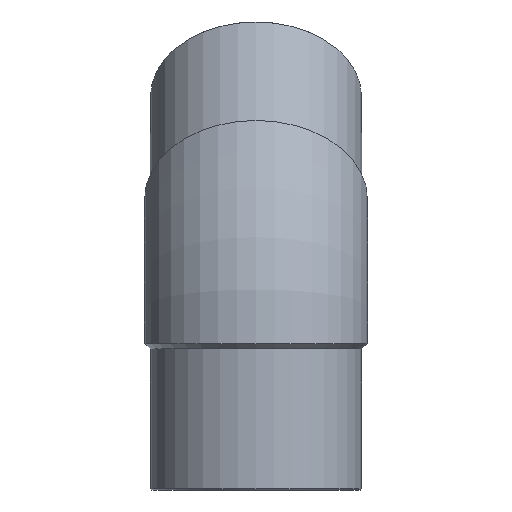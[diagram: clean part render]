
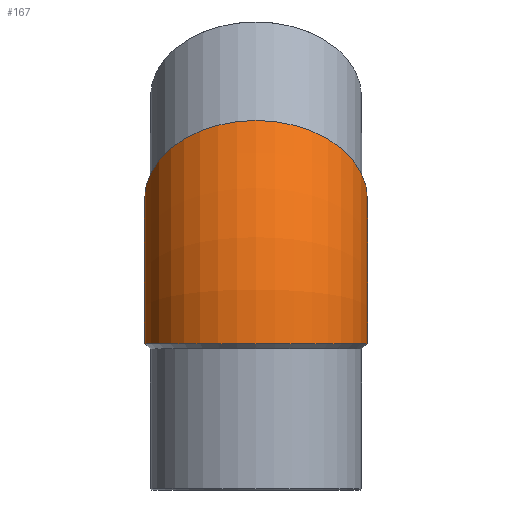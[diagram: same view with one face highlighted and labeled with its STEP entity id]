
A CAD part, left-side view. The second image highlights one B-rep face of the part: STEP entity #167.
In plain terms, the highlighted toroidal (fillet/blend) face has major radius 154.51 mm and minor radius 84.5 mm.
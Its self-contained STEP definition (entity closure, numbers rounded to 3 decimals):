
#20=TOROIDAL_SURFACE('',#201,154.51,84.5);
#49=ORIENTED_EDGE('',*,*,#68,.F.);
#50=ORIENTED_EDGE('',*,*,#80,.T.);
#68=EDGE_CURVE('',#85,#85,#101,.F.);
#80=EDGE_CURVE('',#96,#96,#108,.F.);
#85=VERTEX_POINT('',#269);
#96=VERTEX_POINT('',#313);
#101=CIRCLE('',#189,84.5);
#108=CIRCLE('',#202,84.5);
#122=EDGE_LOOP('',(#49));
#123=EDGE_LOOP('',(#50));
#145=FACE_BOUND('',#122,.T.);
#146=FACE_BOUND('',#123,.T.);
#167=ADVANCED_FACE('',(#145,#146),#20,.T.);
#189=AXIS2_PLACEMENT_3D('',#268,#218,#219);
#201=AXIS2_PLACEMENT_3D('',#311,#242,#243);
#202=AXIS2_PLACEMENT_3D('',#312,#244,#245);
#218=DIRECTION('',(-0.707,0.,-0.707));
#219=DIRECTION('',(0.707,0.,-0.707));
#242=DIRECTION('',(0.,1.,0.));
#243=DIRECTION('',(0.,0.,1.));
#244=DIRECTION('',(0.,0.,-1.));
#245=DIRECTION('',(1.,0.,0.));
#268=CARTESIAN_POINT('',(45.255,0.,45.255));
#269=CARTESIAN_POINT('',(105.005,0.,-14.496));
#311=CARTESIAN_POINT('',(154.51,0.,-64.));
#312=CARTESIAN_POINT('',(0.,0.,-64.));
#313=CARTESIAN_POINT('',(84.5,0.,-64.));
